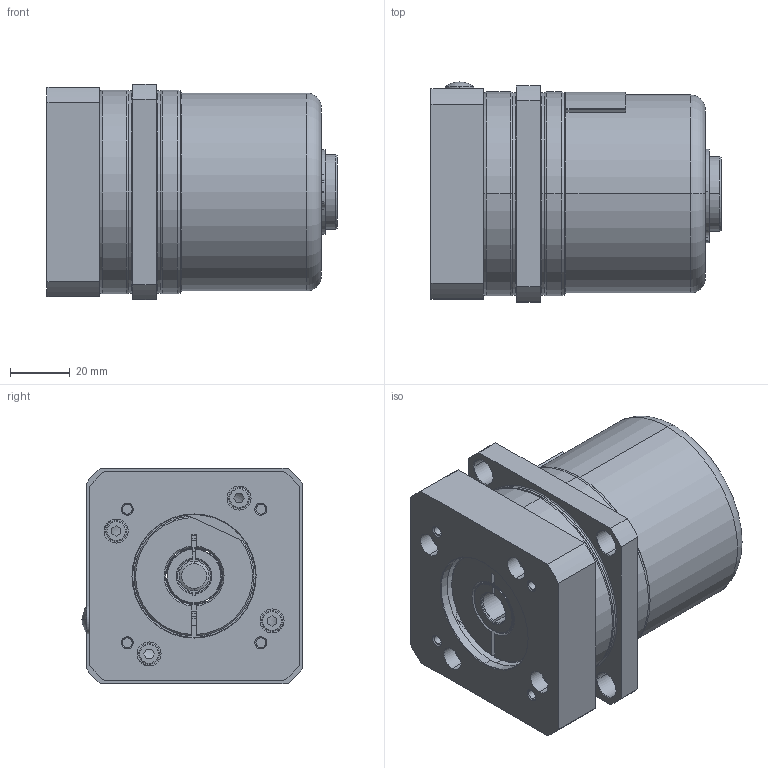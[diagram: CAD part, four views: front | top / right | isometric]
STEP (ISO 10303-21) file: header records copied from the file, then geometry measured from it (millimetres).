
FILE_DESCRIPTION (( 'STEP AP214' ), '1' );
FILE_NAME ('PL-010-0RR-FFF-MMM-F-LL-XXX-AXX-DDCC.STEP', '2019-10-24T13:28:25', ( '' ), ( '' ), 'SwSTEP 2.0', 'SolidWorks 2019', '' );
FILE_SCHEMA (( 'AUTOMOTIVE_DESIGN' ));
Length unit declared in the file: millimetre
Products named in the file (1): PL-010-0RR-FFF-MMM-F-LL-XXX-AXX-DDCC
Bounding box: 96.7 x 73.39 x 72 mm (x, y, z)
Surface area: 46740.2 mm2 (no closed solid volume)
Topology: 0 solids, 16 shells, 250 faces, 746 edges, 518 vertices
Faces by surface type: cylinder 90, cone 64, plane 57, torus 37, sphere 2
Entity records: 11568 total; most frequent: CARTESIAN_POINT 2040, DIRECTION 1495, ORIENTED_EDGE 1248, EDGE_CURVE 746, AXIS2_PLACEMENT_3D 604, VERTEX_POINT 518, CIRCLE 353, EDGE_LOOP 296
